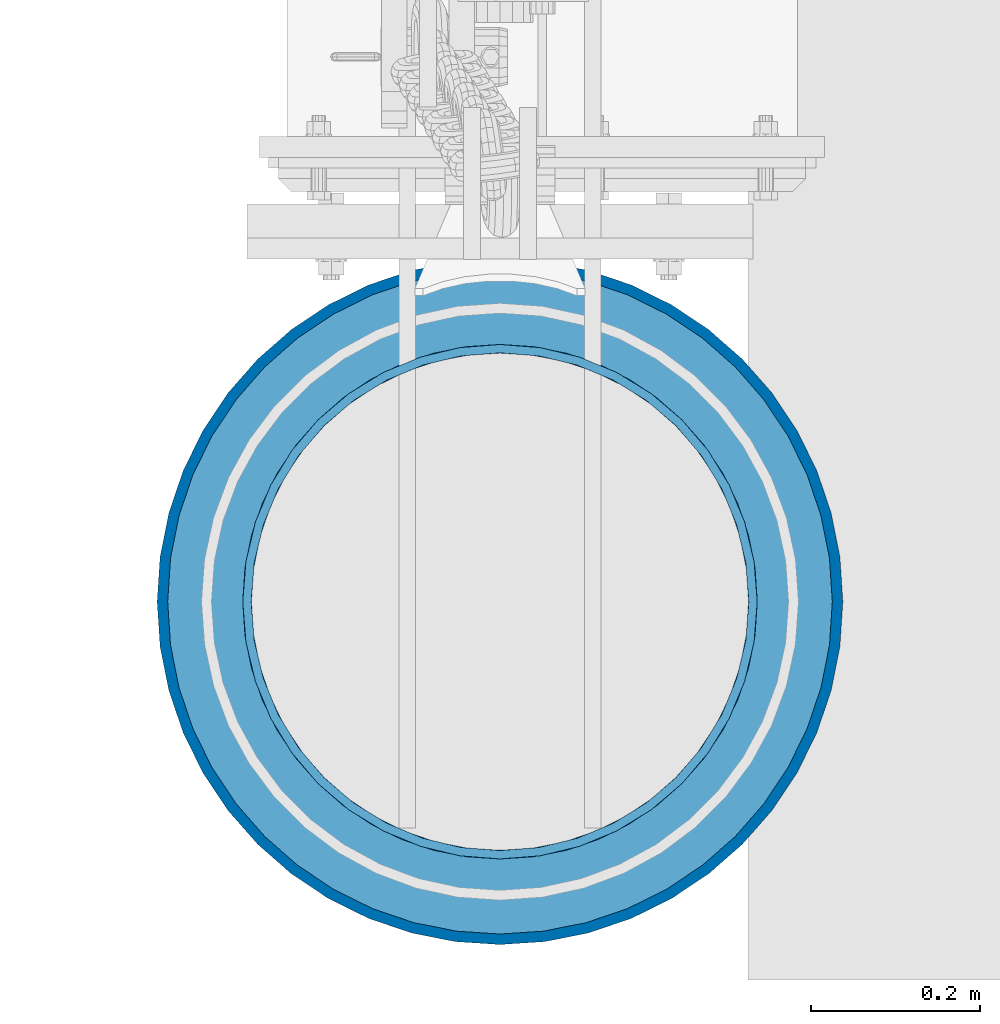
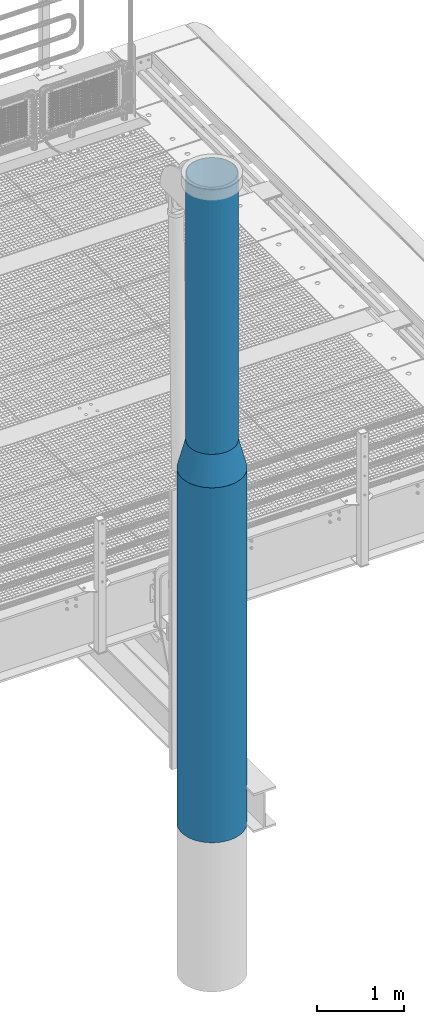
# One storey, part 108 of 1530: 3 columns.
"""IFC2X3 building model written with IfcOpenShell, lengths in millimetres."""

from ifc_helpers import new_model, si_unit, frame, origin_with_axes, place, context, subcontext, project, spatial, faceted_brep, material, type_object, element, save


model = new_model("IFC2X3")

# Units and contexts
model_context = context("Model", 3, precision=1e-05, world=origin_with_axes())
body_context = subcontext(model_context, "Body", "Model", "MODEL_VIEW")
ifc_project = project(units=[si_unit("LENGTHUNIT", "METRE", prefix="MILLI"), si_unit("AREAUNIT", "SQUARE_METRE"), si_unit("VOLUMEUNIT", "CUBIC_METRE"), si_unit("MASSUNIT", "GRAM", prefix="KILO"), si_unit("TIMEUNIT", "SECOND"), si_unit("PLANEANGLEUNIT", "RADIAN"), si_unit("SOLIDANGLEUNIT", "STERADIAN"), si_unit("THERMODYNAMICTEMPERATUREUNIT", "DEGREE_CELSIUS"), si_unit("LUMINOUSINTENSITYUNIT", "LUMEN")], contexts=[model_context])

# Site, building, storey
site_placement = place(None, origin_with_axes())
site = spatial("IfcSite", under=ifc_project, at=site_placement, Name="Brattvåg", CompositionType="ELEMENT")
building_placement = place(site_placement, origin_with_axes())
building = spatial("IfcBuilding", under=site, at=building_placement, Name="Undefined", CompositionType="ELEMENT")
storey_placement = place(building_placement, origin_with_axes())
storey = spatial("IfcBuildingStorey", under=building, at=storey_placement, Name="Undefined", CompositionType="ELEMENT", Elevation=0.0)

# Columns
ifc_material = material(Name="STEEL/Steel_Undefined")
column_type_1 = type_object("IfcColumnType", Name="EPD813*813*610*610*10", PredefinedType="NOTDEFINED")
column_1_placement = place(storey_placement, frame((12199.9995346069, -1321.50027084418, 2100.0), z_axis=(-1.0, 1.99999855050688e-09, 0.0), x_axis=(0.0, 0.0, 1.0)))
element("IfcColumn", 1, at=column_1_placement, inside=storey, type_object=column_type_1, material=ifc_material, Name="HEISTÅRN", context=body_context, shape_type="Brep", body=[
    faceted_brep([(0.0, -406.5, 0.0), (0.0, -403.022336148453, -53.0588971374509), (400.0, -302.390682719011, -39.8104886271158), (400.0, -305.0, 0.0), (0.0, -392.648848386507, -105.209941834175), (400.0, -294.607377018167, -78.9398087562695), (0.0, -375.557029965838, -155.560815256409), (400.0, -281.783257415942, -116.718446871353), (0.0, -352.039326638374, -203.25), (400.0, -264.137748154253, -152.5), (0.0, -322.498132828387, -247.461520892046), (400.0, -241.972768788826, -185.67223584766), (0.0, -287.438906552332, -287.438906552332), (400.0, -215.667568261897, -215.667568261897), (0.0, -247.461520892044, -322.498132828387), (400.0, -185.67223584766, -241.972768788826), (0.0, -203.25, -352.039326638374), (400.0, -152.5, -264.137748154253), (0.0, -155.560815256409, -375.557029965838), (400.0, -116.718446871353, -281.783257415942), (0.0, -105.209941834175, -392.648848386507), (400.0, -78.9398087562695, -294.607377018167), (0.0, -53.0588971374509, -403.022336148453), (400.0, -39.8104886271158, -302.390682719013), (0.0, 0.0, -406.5), (400.0, 0.0, -305.0), (0.0, 53.0588971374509, -403.022336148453), (400.0, 39.8104886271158, -302.390682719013), (0.0, 105.209941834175, -392.648848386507), (400.0, 78.9398087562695, -294.607377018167), (0.0, 155.560815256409, -375.557029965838), (400.0, 116.718446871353, -281.783257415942), (0.0, 203.25, -352.039326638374), (400.0, 152.5, -264.137748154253), (0.0, 247.461520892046, -322.498132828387), (400.0, 185.67223584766, -241.972768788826), (0.0, 287.438906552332, -287.438906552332), (400.0, 215.667568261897, -215.667568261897), (0.0, 322.498132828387, -247.461520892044), (400.0, 241.972768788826, -185.67223584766), (0.0, 352.039326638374, -203.25), (400.0, 264.137748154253, -152.5), (0.0, 375.557029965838, -155.560815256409), (400.0, 281.783257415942, -116.718446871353), (0.0, 392.648848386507, -105.209941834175), (400.0, 294.607377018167, -78.9398087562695), (0.0, 403.022336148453, -53.0588971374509), (400.0, 302.390682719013, -39.8104886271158), (0.0, 406.5, 0.0), (400.0, 305.0, 0.0), (0.0, 403.022336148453, 53.0588971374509), (400.0, 302.390682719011, 39.8104886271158), (0.0, 392.648848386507, 105.209941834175), (400.0, 294.607377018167, 78.9398087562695), (0.0, 375.557029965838, 155.560815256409), (400.0, 281.783257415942, 116.718446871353), (0.0, 352.039326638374, 203.25), (400.0, 264.137748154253, 152.5), (0.0, 322.498132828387, 247.461520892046), (400.0, 241.972768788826, 185.67223584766), (0.0, 287.438906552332, 287.438906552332), (400.0, 215.667568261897, 215.667568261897), (0.0, 247.461520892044, 322.498132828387), (400.0, 185.67223584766, 241.972768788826), (0.0, 203.25, 352.039326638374), (400.0, 152.5, 264.137748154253), (0.0, 155.560815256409, 375.557029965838), (400.0, 116.718446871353, 281.783257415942), (0.0, 105.209941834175, 392.648848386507), (400.0, 78.9398087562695, 294.607377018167), (0.0, 53.0588971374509, 403.022336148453), (400.0, 39.8104886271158, 302.390682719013), (0.0, 0.0, 406.5), (400.0, 0.0, 305.0), (0.0, -53.0588971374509, 403.022336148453), (400.0, -39.8104886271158, 302.390682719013), (0.0, -105.209941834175, 392.648848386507), (400.0, -78.9398087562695, 294.607377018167), (0.0, -155.560815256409, 375.557029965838), (400.0, -116.718446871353, 281.783257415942), (0.0, -203.25, 352.039326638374), (400.0, -152.5, 264.137748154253), (0.0, -247.461520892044, 322.498132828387), (400.0, -185.67223584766, 241.972768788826), (0.0, -287.438906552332, 287.438906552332), (400.0, -215.667568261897, 215.667568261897), (0.0, -322.498132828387, 247.461520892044), (400.0, -241.972768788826, 185.67223584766), (0.0, -352.039326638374, 203.25), (400.0, -264.137748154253, 152.5), (0.0, -375.557029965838, 155.560815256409), (400.0, -281.783257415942, 116.718446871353), (0.0, -392.648848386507, 105.209941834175), (400.0, -294.607377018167, 78.9398087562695), (0.0, -403.022336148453, 53.0588971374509), (400.0, -302.390682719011, 39.8104886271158), (0.0, -396.183076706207, 0.0), (0.0, -392.793675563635, 51.712268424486), (400.0, -292.162022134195, 38.4638599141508), (400.0, -294.683076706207, 0.0), (0.0, -382.683465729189, 102.539725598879), (400.0, -284.641994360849, 76.2695925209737), (0.0, -366.025435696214, 151.612699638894), (400.0, -272.251663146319, 112.770331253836), (0.0, -343.104608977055, 198.091538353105), (400.0, -255.203030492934, 147.341538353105), (0.0, -314.313167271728, 241.180975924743), (400.0, -233.787803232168, 179.391690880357), (0.0, -280.14374013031, 280.14374013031), (400.0, -208.372401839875, 208.372401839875), (0.0, -241.180975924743, 314.313167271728), (400.0, -179.391690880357, 233.787803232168), (0.0, -198.091538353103, 343.104608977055), (400.0, -147.341538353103, 255.203030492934), (0.0, -151.612699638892, 366.025435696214), (400.0, -112.770331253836, 272.251663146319), (0.0, -102.539725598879, 382.683465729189), (400.0, -76.2695925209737, 284.641994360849), (0.0, -51.712268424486, 392.793675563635), (400.0, -38.4638599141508, 292.162022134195), (0.0, 0.0, 396.183076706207), (400.0, 0.0, 294.683076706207), (0.0, 51.712268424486, 392.793675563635), (400.0, 38.4638599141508, 292.162022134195), (0.0, 102.539725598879, 382.683465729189), (400.0, 76.2695925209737, 284.641994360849), (0.0, 151.612699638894, 366.025435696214), (400.0, 112.770331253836, 272.251663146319), (0.0, 198.091538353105, 343.104608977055), (400.0, 147.341538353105, 255.203030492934), (0.0, 241.180975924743, 314.313167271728), (400.0, 179.391690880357, 233.787803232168), (0.0, 280.14374013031, 280.14374013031), (400.0, 208.372401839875, 208.372401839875), (0.0, 314.313167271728, 241.180975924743), (400.0, 233.787803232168, 179.391690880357), (0.0, 343.104608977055, 198.091538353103), (400.0, 255.203030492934, 147.341538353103), (0.0, 366.025435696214, 151.612699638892), (400.0, 272.251663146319, 112.770331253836), (0.0, 382.683465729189, 102.539725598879), (400.0, 284.641994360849, 76.2695925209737), (0.0, 392.793675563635, 51.712268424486), (400.0, 292.162022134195, 38.4638599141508), (0.0, 396.183076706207, 0.0), (400.0, 294.683076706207, 0.0), (0.0, 392.793675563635, -51.712268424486), (400.0, 292.162022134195, -38.4638599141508), (0.0, 382.683465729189, -102.539725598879), (400.0, 284.641994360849, -76.2695925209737), (0.0, 366.025435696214, -151.612699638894), (400.0, 272.251663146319, -112.770331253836), (0.0, 343.104608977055, -198.091538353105), (400.0, 255.203030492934, -147.341538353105), (0.0, 314.313167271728, -241.180975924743), (400.0, 233.787803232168, -179.391690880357), (0.0, 280.14374013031, -280.14374013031), (400.0, 208.372401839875, -208.372401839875), (0.0, 241.180975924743, -314.313167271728), (400.0, 179.391690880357, -233.787803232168), (0.0, 198.091538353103, -343.104608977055), (400.0, 147.341538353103, -255.203030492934), (0.0, 151.612699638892, -366.025435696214), (400.0, 112.770331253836, -272.251663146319), (0.0, 102.539725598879, -382.683465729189), (400.0, 76.2695925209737, -284.641994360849), (0.0, 51.712268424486, -392.793675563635), (400.0, 38.4638599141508, -292.162022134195), (0.0, 0.0, -396.183076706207), (400.0, 0.0, -294.683076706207), (0.0, -51.712268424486, -392.793675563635), (400.0, -38.4638599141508, -292.162022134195), (0.0, -102.539725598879, -382.683465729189), (400.0, -76.2695925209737, -284.641994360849), (0.0, -151.612699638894, -366.025435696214), (400.0, -112.770331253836, -272.251663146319), (0.0, -198.091538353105, -343.104608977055), (400.0, -147.341538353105, -255.203030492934), (0.0, -241.180975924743, -314.313167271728), (400.0, -179.391690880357, -233.787803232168), (0.0, -280.14374013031, -280.14374013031), (400.0, -208.372401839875, -208.372401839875), (0.0, -314.313167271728, -241.180975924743), (400.0, -233.787803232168, -179.391690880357), (0.0, -343.104608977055, -198.091538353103), (400.0, -255.203030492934, -147.341538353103), (0.0, -366.025435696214, -151.612699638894), (400.0, -272.251663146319, -112.770331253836), (0.0, -382.683465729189, -102.539725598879), (400.0, -284.641994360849, -76.2695925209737), (0.0, -392.793675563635, -51.712268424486), (400.0, -292.162022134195, -38.4638599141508)], [[[0, 1, 2, 3]], [[1, 4, 5, 2]], [[4, 6, 7, 5]], [[6, 8, 9, 7]], [[8, 10, 11, 9]], [[10, 12, 13, 11]], [[12, 14, 15, 13]], [[14, 16, 17, 15]], [[16, 18, 19, 17]], [[18, 20, 21, 19]], [[20, 22, 23, 21]], [[22, 24, 25, 23]], [[24, 26, 27, 25]], [[26, 28, 29, 27]], [[28, 30, 31, 29]], [[30, 32, 33, 31]], [[32, 34, 35, 33]], [[34, 36, 37, 35]], [[36, 38, 39, 37]], [[38, 40, 41, 39]], [[40, 42, 43, 41]], [[42, 44, 45, 43]], [[44, 46, 47, 45]], [[46, 48, 49, 47]], [[48, 50, 51, 49]], [[50, 52, 53, 51]], [[52, 54, 55, 53]], [[54, 56, 57, 55]], [[56, 58, 59, 57]], [[58, 60, 61, 59]], [[60, 62, 63, 61]], [[62, 64, 65, 63]], [[64, 66, 67, 65]], [[66, 68, 69, 67]], [[68, 70, 71, 69]], [[70, 72, 73, 71]], [[72, 74, 75, 73]], [[74, 76, 77, 75]], [[76, 78, 79, 77]], [[78, 80, 81, 79]], [[80, 82, 83, 81]], [[82, 84, 85, 83]], [[84, 86, 87, 85]], [[86, 88, 89, 87]], [[88, 90, 91, 89]], [[90, 92, 93, 91]], [[92, 94, 95, 93]], [[94, 0, 3, 95]], [[96, 97, 98, 99]], [[97, 100, 101, 98]], [[100, 102, 103, 101]], [[102, 104, 105, 103]], [[104, 106, 107, 105]], [[106, 108, 109, 107]], [[108, 110, 111, 109]], [[110, 112, 113, 111]], [[112, 114, 115, 113]], [[114, 116, 117, 115]], [[116, 118, 119, 117]], [[118, 120, 121, 119]], [[120, 122, 123, 121]], [[122, 124, 125, 123]], [[124, 126, 127, 125]], [[126, 128, 129, 127]], [[128, 130, 131, 129]], [[130, 132, 133, 131]], [[132, 134, 135, 133]], [[134, 136, 137, 135]], [[136, 138, 139, 137]], [[138, 140, 141, 139]], [[140, 142, 143, 141]], [[142, 144, 145, 143]], [[144, 146, 147, 145]], [[146, 148, 149, 147]], [[148, 150, 151, 149]], [[150, 152, 153, 151]], [[152, 154, 155, 153]], [[154, 156, 157, 155]], [[156, 158, 159, 157]], [[158, 160, 161, 159]], [[160, 162, 163, 161]], [[162, 164, 165, 163]], [[164, 166, 167, 165]], [[166, 168, 169, 167]], [[168, 170, 171, 169]], [[170, 172, 173, 171]], [[172, 174, 175, 173]], [[174, 176, 177, 175]], [[176, 178, 179, 177]], [[178, 180, 181, 179]], [[180, 182, 183, 181]], [[182, 184, 185, 183]], [[184, 186, 187, 185]], [[186, 188, 189, 187]], [[188, 190, 191, 189]], [[190, 96, 99, 191]], [[5, 7, 9, 11, 13, 15, 17, 19, 21, 23, 25, 27, 29, 31, 33, 35, 37, 39, 41, 43, 45, 47, 49, 51, 53, 55, 57, 59, 61, 63, 65, 67, 69, 71, 73, 75, 77, 79, 81, 83, 85, 87, 89, 91, 93, 95, 3, 2], [101, 103, 105, 107, 109, 111, 113, 115, 117, 119, 121, 123, 125, 127, 129, 131, 133, 135, 137, 139, 141, 143, 145, 147, 149, 151, 153, 155, 157, 159, 161, 163, 165, 167, 169, 171, 173, 175, 177, 179, 181, 183, 185, 187, 189, 191, 99, 98]], [[94, 92, 90, 88, 86, 84, 82, 80, 78, 76, 74, 72, 70, 68, 66, 64, 62, 60, 58, 56, 54, 52, 50, 48, 46, 44, 42, 40, 38, 36, 34, 32, 30, 28, 26, 24, 22, 20, 18, 16, 14, 12, 10, 8, 6, 4, 1, 0], [190, 188, 186, 184, 182, 180, 178, 176, 174, 172, 170, 168, 166, 164, 162, 160, 158, 156, 154, 152, 150, 148, 146, 144, 142, 140, 138, 136, 134, 132, 130, 128, 126, 124, 122, 120, 118, 116, 114, 112, 110, 108, 106, 104, 102, 100, 97, 96]]]),
])
column_type_2 = type_object("IfcColumnType", Name="Ø813*12.5", PredefinedType="NOTDEFINED")
column_2_placement = place(storey_placement, frame((12199.9995346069, -1321.50027084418, -2900.0), z_axis=(-1.0, 1.99999855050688e-09, 0.0), x_axis=(0.0, 0.0, 1.0)))
element("IfcColumn", 2, at=column_2_placement, inside=storey, type_object=column_type_2, material=ifc_material, Name="HEISTÅRN", context=body_context, shape_type="Brep", body=[
    faceted_brep([(0.0, -394.0, 0.0), (0.0, -390.629275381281, 51.4273197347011), (5000.0, -390.629275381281, 51.4273197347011), (5000.0, -394.0, 0.0), (0.0, -380.574775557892, 101.974703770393), (5000.0, -380.574775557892, 101.974703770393), (0.0, -364.008535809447, 150.777272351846), (5000.0, -364.008535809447, 150.777272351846), (0.0, -341.214009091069, 197.0), (5000.0, -341.214009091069, 197.0), (0.0, -312.581216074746, 239.852003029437), (5000.0, -312.581216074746, 239.852003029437), (0.0, -278.600071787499, 278.600071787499), (5000.0, -278.600071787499, 278.600071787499), (0.0, -239.852003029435, 312.581216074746), (5000.0, -239.852003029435, 312.581216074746), (0.0, -197.0, 341.214009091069), (5000.0, -197.0, 341.214009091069), (0.0, -150.777272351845, 364.008535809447), (5000.0, -150.777272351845, 364.008535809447), (0.0, -101.974703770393, 380.574775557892), (5000.0, -101.974703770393, 380.574775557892), (0.0, -51.4273197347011, 390.629275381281), (5000.0, -51.4273197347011, 390.629275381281), (0.0, 0.0, 394.0), (5000.0, 0.0, 394.0), (0.0, 51.4273197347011, 390.629275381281), (5000.0, 51.4273197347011, 390.629275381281), (0.0, 101.974703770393, 380.574775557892), (5000.0, 101.974703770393, 380.574775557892), (0.0, 150.777272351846, 364.008535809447), (5000.0, 150.777272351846, 364.008535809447), (0.0, 197.0, 341.214009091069), (5000.0, 197.0, 341.214009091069), (0.0, 239.852003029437, 312.581216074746), (5000.0, 239.852003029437, 312.581216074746), (0.0, 278.600071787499, 278.600071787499), (5000.0, 278.600071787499, 278.600071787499), (0.0, 312.581216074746, 239.852003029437), (5000.0, 312.581216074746, 239.852003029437), (0.0, 341.214009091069, 197.0), (5000.0, 341.214009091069, 197.0), (0.0, 364.008535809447, 150.777272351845), (5000.0, 364.008535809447, 150.777272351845), (0.0, 380.574775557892, 101.974703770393), (5000.0, 380.574775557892, 101.974703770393), (0.0, 390.629275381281, 51.4273197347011), (5000.0, 390.629275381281, 51.4273197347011), (0.0, 394.0, 0.0), (5000.0, 394.0, 0.0), (0.0, 390.629275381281, -51.4273197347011), (5000.0, 390.629275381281, -51.4273197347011), (0.0, 380.574775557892, -101.974703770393), (5000.0, 380.574775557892, -101.974703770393), (0.0, 364.008535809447, -150.777272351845), (5000.0, 364.008535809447, -150.777272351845), (0.0, 341.214009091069, -197.0), (5000.0, 341.214009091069, -197.0), (0.0, 312.581216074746, -239.852003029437), (5000.0, 312.581216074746, -239.852003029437), (0.0, 278.600071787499, -278.600071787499), (5000.0, 278.600071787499, -278.600071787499), (0.0, 239.852003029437, -312.581216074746), (5000.0, 239.852003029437, -312.581216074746), (0.0, 197.0, -341.214009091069), (5000.0, 197.0, -341.214009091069), (0.0, 150.777272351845, -364.008535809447), (5000.0, 150.777272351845, -364.008535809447), (0.0, 101.974703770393, -380.574775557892), (5000.0, 101.974703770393, -380.574775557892), (0.0, 51.4273197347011, -390.629275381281), (5000.0, 51.4273197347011, -390.629275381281), (0.0, 0.0, -394.0), (5000.0, 0.0, -394.0), (0.0, -51.4273197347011, -390.629275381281), (5000.0, -51.4273197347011, -390.629275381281), (0.0, -101.974703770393, -380.574775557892), (5000.0, -101.974703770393, -380.574775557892), (0.0, -150.777272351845, -364.008535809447), (5000.0, -150.777272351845, -364.008535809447), (0.0, -197.0, -341.214009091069), (5000.0, -197.0, -341.214009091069), (0.0, -239.852003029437, -312.581216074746), (5000.0, -239.852003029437, -312.581216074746), (0.0, -278.600071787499, -278.600071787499), (5000.0, -278.600071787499, -278.600071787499), (0.0, -312.581216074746, -239.852003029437), (5000.0, -312.581216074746, -239.852003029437), (0.0, -341.214009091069, -197.0), (5000.0, -341.214009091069, -197.0), (0.0, -364.008535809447, -150.777272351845), (5000.0, -364.008535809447, -150.777272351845), (0.0, -380.574775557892, -101.974703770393), (5000.0, -380.574775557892, -101.974703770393), (0.0, -390.629275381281, -51.4273197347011), (5000.0, -390.629275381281, -51.4273197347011), (0.0, -406.5, 0.0), (0.0, -403.022336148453, -53.0588971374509), (5000.0, -403.022336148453, -53.0588971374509), (5000.0, -406.5, 0.0), (0.0, -392.648848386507, -105.209941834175), (5000.0, -392.648848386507, -105.209941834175), (0.0, -375.557029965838, -155.560815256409), (5000.0, -375.557029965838, -155.560815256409), (0.0, -352.039326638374, -203.25), (5000.0, -352.039326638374, -203.25), (0.0, -322.498132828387, -247.461520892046), (5000.0, -322.498132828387, -247.461520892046), (0.0, -287.438906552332, -287.438906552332), (5000.0, -287.438906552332, -287.438906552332), (0.0, -247.461520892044, -322.498132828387), (5000.0, -247.461520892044, -322.498132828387), (0.0, -203.25, -352.039326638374), (5000.0, -203.25, -352.039326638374), (0.0, -155.560815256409, -375.557029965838), (5000.0, -155.560815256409, -375.557029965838), (0.0, -105.209941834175, -392.648848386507), (5000.0, -105.209941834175, -392.648848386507), (0.0, -53.0588971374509, -403.022336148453), (5000.0, -53.0588971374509, -403.022336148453), (0.0, 0.0, -406.5), (5000.0, 0.0, -406.5), (0.0, 53.0588971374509, -403.022336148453), (5000.0, 53.0588971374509, -403.022336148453), (0.0, 105.209941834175, -392.648848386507), (5000.0, 105.209941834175, -392.648848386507), (0.0, 155.560815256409, -375.557029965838), (5000.0, 155.560815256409, -375.557029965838), (0.0, 203.25, -352.039326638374), (5000.0, 203.25, -352.039326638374), (0.0, 247.461520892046, -322.498132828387), (5000.0, 247.461520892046, -322.498132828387), (0.0, 287.438906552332, -287.438906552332), (5000.0, 287.438906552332, -287.438906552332), (0.0, 322.498132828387, -247.461520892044), (5000.0, 322.498132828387, -247.461520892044), (0.0, 352.039326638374, -203.25), (5000.0, 352.039326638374, -203.25), (0.0, 375.557029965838, -155.560815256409), (5000.0, 375.557029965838, -155.560815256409), (0.0, 392.648848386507, -105.209941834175), (5000.0, 392.648848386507, -105.209941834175), (0.0, 403.022336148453, -53.0588971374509), (5000.0, 403.022336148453, -53.0588971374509), (0.0, 406.5, 0.0), (5000.0, 406.5, 0.0), (0.0, 403.022336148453, 53.0588971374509), (5000.0, 403.022336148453, 53.0588971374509), (0.0, 392.648848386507, 105.209941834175), (5000.0, 392.648848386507, 105.209941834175), (0.0, 375.557029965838, 155.560815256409), (5000.0, 375.557029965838, 155.560815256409), (0.0, 352.039326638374, 203.25), (5000.0, 352.039326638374, 203.25), (0.0, 322.498132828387, 247.461520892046), (5000.0, 322.498132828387, 247.461520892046), (0.0, 287.438906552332, 287.438906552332), (5000.0, 287.438906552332, 287.438906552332), (0.0, 247.461520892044, 322.498132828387), (5000.0, 247.461520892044, 322.498132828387), (0.0, 203.25, 352.039326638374), (5000.0, 203.25, 352.039326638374), (0.0, 155.560815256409, 375.557029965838), (5000.0, 155.560815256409, 375.557029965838), (0.0, 105.209941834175, 392.648848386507), (5000.0, 105.209941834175, 392.648848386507), (0.0, 53.0588971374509, 403.022336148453), (5000.0, 53.0588971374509, 403.022336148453), (0.0, 0.0, 406.5), (5000.0, 0.0, 406.5), (0.0, -53.0588971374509, 403.022336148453), (5000.0, -53.0588971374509, 403.022336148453), (0.0, -105.209941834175, 392.648848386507), (5000.0, -105.209941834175, 392.648848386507), (0.0, -155.560815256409, 375.557029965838), (5000.0, -155.560815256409, 375.557029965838), (0.0, -203.25, 352.039326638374), (5000.0, -203.25, 352.039326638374), (0.0, -247.461520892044, 322.498132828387), (5000.0, -247.461520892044, 322.498132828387), (0.0, -287.438906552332, 287.438906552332), (5000.0, -287.438906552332, 287.438906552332), (0.0, -322.498132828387, 247.461520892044), (5000.0, -322.498132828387, 247.461520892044), (0.0, -352.039326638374, 203.25), (5000.0, -352.039326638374, 203.25), (0.0, -375.557029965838, 155.560815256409), (5000.0, -375.557029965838, 155.560815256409), (0.0, -392.648848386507, 105.209941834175), (5000.0, -392.648848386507, 105.209941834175), (0.0, -403.022336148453, 53.0588971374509), (5000.0, -403.022336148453, 53.0588971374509)], [[[0, 1, 2, 3]], [[1, 4, 5, 2]], [[4, 6, 7, 5]], [[6, 8, 9, 7]], [[8, 10, 11, 9]], [[10, 12, 13, 11]], [[12, 14, 15, 13]], [[14, 16, 17, 15]], [[16, 18, 19, 17]], [[18, 20, 21, 19]], [[20, 22, 23, 21]], [[22, 24, 25, 23]], [[24, 26, 27, 25]], [[26, 28, 29, 27]], [[28, 30, 31, 29]], [[30, 32, 33, 31]], [[32, 34, 35, 33]], [[34, 36, 37, 35]], [[36, 38, 39, 37]], [[38, 40, 41, 39]], [[40, 42, 43, 41]], [[42, 44, 45, 43]], [[44, 46, 47, 45]], [[46, 48, 49, 47]], [[48, 50, 51, 49]], [[50, 52, 53, 51]], [[52, 54, 55, 53]], [[54, 56, 57, 55]], [[56, 58, 59, 57]], [[58, 60, 61, 59]], [[60, 62, 63, 61]], [[62, 64, 65, 63]], [[64, 66, 67, 65]], [[66, 68, 69, 67]], [[68, 70, 71, 69]], [[70, 72, 73, 71]], [[72, 74, 75, 73]], [[74, 76, 77, 75]], [[76, 78, 79, 77]], [[78, 80, 81, 79]], [[80, 82, 83, 81]], [[82, 84, 85, 83]], [[84, 86, 87, 85]], [[86, 88, 89, 87]], [[88, 90, 91, 89]], [[90, 92, 93, 91]], [[92, 94, 95, 93]], [[94, 0, 3, 95]], [[96, 97, 98, 99]], [[97, 100, 101, 98]], [[100, 102, 103, 101]], [[102, 104, 105, 103]], [[104, 106, 107, 105]], [[106, 108, 109, 107]], [[108, 110, 111, 109]], [[110, 112, 113, 111]], [[112, 114, 115, 113]], [[114, 116, 117, 115]], [[116, 118, 119, 117]], [[118, 120, 121, 119]], [[120, 122, 123, 121]], [[122, 124, 125, 123]], [[124, 126, 127, 125]], [[126, 128, 129, 127]], [[128, 130, 131, 129]], [[130, 132, 133, 131]], [[132, 134, 135, 133]], [[134, 136, 137, 135]], [[136, 138, 139, 137]], [[138, 140, 141, 139]], [[140, 142, 143, 141]], [[142, 144, 145, 143]], [[144, 146, 147, 145]], [[146, 148, 149, 147]], [[148, 150, 151, 149]], [[150, 152, 153, 151]], [[152, 154, 155, 153]], [[154, 156, 157, 155]], [[156, 158, 159, 157]], [[158, 160, 161, 159]], [[160, 162, 163, 161]], [[162, 164, 165, 163]], [[164, 166, 167, 165]], [[166, 168, 169, 167]], [[168, 170, 171, 169]], [[170, 172, 173, 171]], [[172, 174, 175, 173]], [[174, 176, 177, 175]], [[176, 178, 179, 177]], [[178, 180, 181, 179]], [[180, 182, 183, 181]], [[182, 184, 185, 183]], [[184, 186, 187, 185]], [[186, 188, 189, 187]], [[188, 190, 191, 189]], [[190, 96, 99, 191]], [[101, 103, 105, 107, 109, 111, 113, 115, 117, 119, 121, 123, 125, 127, 129, 131, 133, 135, 137, 139, 141, 143, 145, 147, 149, 151, 153, 155, 157, 159, 161, 163, 165, 167, 169, 171, 173, 175, 177, 179, 181, 183, 185, 187, 189, 191, 99, 98], [5, 7, 9, 11, 13, 15, 17, 19, 21, 23, 25, 27, 29, 31, 33, 35, 37, 39, 41, 43, 45, 47, 49, 51, 53, 55, 57, 59, 61, 63, 65, 67, 69, 71, 73, 75, 77, 79, 81, 83, 85, 87, 89, 91, 93, 95, 3, 2]], [[190, 188, 186, 184, 182, 180, 178, 176, 174, 172, 170, 168, 166, 164, 162, 160, 158, 156, 154, 152, 150, 148, 146, 144, 142, 140, 138, 136, 134, 132, 130, 128, 126, 124, 122, 120, 118, 116, 114, 112, 110, 108, 106, 104, 102, 100, 97, 96], [94, 92, 90, 88, 86, 84, 82, 80, 78, 76, 74, 72, 70, 68, 66, 64, 62, 60, 58, 56, 54, 52, 50, 48, 46, 44, 42, 40, 38, 36, 34, 32, 30, 28, 26, 24, 22, 20, 18, 16, 14, 12, 10, 8, 6, 4, 1, 0]]]),
])
column_type_3 = type_object("IfcColumnType", Name="Ø610*10", PredefinedType="NOTDEFINED")
column_3_placement = place(storey_placement, frame((12199.9995346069, -1321.50027084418, 2500.0), z_axis=(-1.0, 1.99999855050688e-09, 0.0), x_axis=(0.0, 0.0, 1.0)))
element("IfcColumn", 3, at=column_3_placement, inside=storey, type_object=column_type_3, material=ifc_material, Name="HEISTÅRN", context=body_context, shape_type="Brep", body=[
    faceted_brep([(0.0, -295.0, 0.0), (0.0, -291.368060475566, 46.1481671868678), (3760.0, -291.368060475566, 46.1481671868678), (3760.0, -295.0, 0.0), (0.0, -280.561672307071, 91.16001334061), (3760.0, -280.561672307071, 91.16001334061), (0.0, -262.846924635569, 133.927197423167), (3760.0, -262.846924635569, 133.927197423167), (0.0, -238.66001334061, 173.39664942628), (3760.0, -238.66001334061, 173.39664942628), (0.0, -208.596500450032, 208.596500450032), (3760.0, -208.596500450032, 208.596500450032), (0.0, -173.396649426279, 238.66001334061), (3760.0, -173.396649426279, 238.66001334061), (0.0, -133.927197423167, 262.846924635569), (3760.0, -133.927197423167, 262.846924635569), (0.0, -91.16001334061, 280.561672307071), (3760.0, -91.16001334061, 280.561672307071), (0.0, -46.1481671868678, 291.368060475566), (3760.0, -46.1481671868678, 291.368060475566), (0.0, 0.0, 295.0), (3760.0, 0.0, 295.0), (0.0, 46.1481671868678, 291.368060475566), (3760.0, 46.1481671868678, 291.368060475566), (0.0, 91.16001334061, 280.561672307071), (3760.0, 91.16001334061, 280.561672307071), (0.0, 133.927197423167, 262.846924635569), (3760.0, 133.927197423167, 262.846924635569), (0.0, 173.39664942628, 238.66001334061), (3760.0, 173.39664942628, 238.66001334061), (0.0, 208.596500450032, 208.596500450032), (3760.0, 208.596500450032, 208.596500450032), (0.0, 238.66001334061, 173.39664942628), (3760.0, 238.66001334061, 173.39664942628), (0.0, 262.846924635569, 133.927197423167), (3760.0, 262.846924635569, 133.927197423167), (0.0, 280.561672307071, 91.16001334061), (3760.0, 280.561672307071, 91.16001334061), (0.0, 291.368060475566, 46.1481671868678), (3760.0, 291.368060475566, 46.1481671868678), (0.0, 295.0, 0.0), (3760.0, 295.0, 0.0), (0.0, 291.368060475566, -46.1481671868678), (3760.0, 291.368060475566, -46.1481671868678), (0.0, 280.561672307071, -91.16001334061), (3760.0, 280.561672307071, -91.16001334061), (0.0, 262.846924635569, -133.927197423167), (3760.0, 262.846924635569, -133.927197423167), (0.0, 238.66001334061, -173.39664942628), (3760.0, 238.66001334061, -173.39664942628), (0.0, 208.596500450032, -208.596500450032), (3760.0, 208.596500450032, -208.596500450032), (0.0, 173.39664942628, -238.66001334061), (3760.0, 173.39664942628, -238.66001334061), (0.0, 133.927197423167, -262.846924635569), (3760.0, 133.927197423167, -262.846924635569), (0.0, 91.16001334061, -280.561672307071), (3760.0, 91.16001334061, -280.561672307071), (0.0, 46.1481671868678, -291.368060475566), (3760.0, 46.1481671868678, -291.368060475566), (0.0, 0.0, -295.0), (3760.0, 0.0, -295.0), (0.0, -46.1481671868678, -291.368060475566), (3760.0, -46.1481671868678, -291.368060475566), (0.0, -91.16001334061, -280.561672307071), (3760.0, -91.16001334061, -280.561672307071), (0.0, -133.927197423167, -262.846924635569), (3760.0, -133.927197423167, -262.846924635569), (0.0, -173.39664942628, -238.66001334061), (3760.0, -173.39664942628, -238.66001334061), (0.0, -208.596500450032, -208.596500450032), (3760.0, -208.596500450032, -208.596500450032), (0.0, -238.66001334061, -173.39664942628), (3760.0, -238.66001334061, -173.39664942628), (0.0, -262.846924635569, -133.927197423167), (3760.0, -262.846924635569, -133.927197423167), (0.0, -280.561672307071, -91.16001334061), (3760.0, -280.561672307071, -91.16001334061), (0.0, -291.368060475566, -46.1481671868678), (3760.0, -291.368060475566, -46.1481671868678), (0.0, -305.0, 0.0), (0.0, -301.244943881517, -47.7125118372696), (3760.0, -301.244943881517, -47.7125118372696), (3760.0, -305.0, 0.0), (0.0, -290.072237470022, -94.2501832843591), (3760.0, -290.072237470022, -94.2501832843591), (0.0, -271.756989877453, -138.467102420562), (3760.0, -271.756989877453, -138.467102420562), (0.0, -246.750183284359, -179.274501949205), (3760.0, -246.750183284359, -179.274501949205), (0.0, -215.667568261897, -215.667568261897), (3760.0, -215.667568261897, -215.667568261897), (0.0, -179.274501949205, -246.750183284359), (3760.0, -179.274501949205, -246.750183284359), (0.0, -138.467102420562, -271.756989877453), (3760.0, -138.467102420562, -271.756989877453), (0.0, -94.2501832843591, -290.072237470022), (3760.0, -94.2501832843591, -290.072237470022), (0.0, -47.7125118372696, -301.244943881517), (3760.0, -47.7125118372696, -301.244943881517), (0.0, 0.0, -305.0), (3760.0, 0.0, -305.0), (0.0, 47.7125118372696, -301.244943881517), (3760.0, 47.7125118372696, -301.244943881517), (0.0, 94.2501832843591, -290.072237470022), (3760.0, 94.2501832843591, -290.072237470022), (0.0, 138.467102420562, -271.756989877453), (3760.0, 138.467102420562, -271.756989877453), (0.0, 179.274501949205, -246.750183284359), (3760.0, 179.274501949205, -246.750183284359), (0.0, 215.667568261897, -215.667568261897), (3760.0, 215.667568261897, -215.667568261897), (0.0, 246.750183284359, -179.274501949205), (3760.0, 246.750183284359, -179.274501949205), (0.0, 271.756989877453, -138.467102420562), (3760.0, 271.756989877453, -138.467102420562), (0.0, 290.072237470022, -94.2501832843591), (3760.0, 290.072237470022, -94.2501832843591), (0.0, 301.244943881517, -47.7125118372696), (3760.0, 301.244943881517, -47.7125118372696), (0.0, 305.0, 0.0), (3760.0, 305.0, 0.0), (0.0, 301.244943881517, 47.7125118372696), (3760.0, 301.244943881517, 47.7125118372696), (0.0, 290.072237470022, 94.2501832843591), (3760.0, 290.072237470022, 94.2501832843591), (0.0, 271.756989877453, 138.467102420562), (3760.0, 271.756989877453, 138.467102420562), (0.0, 246.750183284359, 179.274501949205), (3760.0, 246.750183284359, 179.274501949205), (0.0, 215.667568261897, 215.667568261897), (3760.0, 215.667568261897, 215.667568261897), (0.0, 179.274501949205, 246.750183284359), (3760.0, 179.274501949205, 246.750183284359), (0.0, 138.467102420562, 271.756989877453), (3760.0, 138.467102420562, 271.756989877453), (0.0, 94.2501832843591, 290.072237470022), (3760.0, 94.2501832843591, 290.072237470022), (0.0, 47.7125118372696, 301.244943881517), (3760.0, 47.7125118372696, 301.244943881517), (0.0, 0.0, 305.0), (3760.0, 0.0, 305.0), (0.0, -47.7125118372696, 301.244943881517), (3760.0, -47.7125118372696, 301.244943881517), (0.0, -94.2501832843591, 290.072237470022), (3760.0, -94.2501832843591, 290.072237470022), (0.0, -138.467102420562, 271.756989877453), (3760.0, -138.467102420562, 271.756989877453), (0.0, -179.274501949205, 246.750183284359), (3760.0, -179.274501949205, 246.750183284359), (0.0, -215.667568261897, 215.667568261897), (3760.0, -215.667568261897, 215.667568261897), (0.0, -246.750183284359, 179.274501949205), (3760.0, -246.750183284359, 179.274501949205), (0.0, -271.756989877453, 138.467102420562), (3760.0, -271.756989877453, 138.467102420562), (0.0, -290.072237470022, 94.2501832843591), (3760.0, -290.072237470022, 94.2501832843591), (0.0, -301.244943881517, 47.7125118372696), (3760.0, -301.244943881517, 47.7125118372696)], [[[0, 1, 2, 3]], [[1, 4, 5, 2]], [[4, 6, 7, 5]], [[6, 8, 9, 7]], [[8, 10, 11, 9]], [[10, 12, 13, 11]], [[12, 14, 15, 13]], [[14, 16, 17, 15]], [[16, 18, 19, 17]], [[18, 20, 21, 19]], [[20, 22, 23, 21]], [[22, 24, 25, 23]], [[24, 26, 27, 25]], [[26, 28, 29, 27]], [[28, 30, 31, 29]], [[30, 32, 33, 31]], [[32, 34, 35, 33]], [[34, 36, 37, 35]], [[36, 38, 39, 37]], [[38, 40, 41, 39]], [[40, 42, 43, 41]], [[42, 44, 45, 43]], [[44, 46, 47, 45]], [[46, 48, 49, 47]], [[48, 50, 51, 49]], [[50, 52, 53, 51]], [[52, 54, 55, 53]], [[54, 56, 57, 55]], [[56, 58, 59, 57]], [[58, 60, 61, 59]], [[60, 62, 63, 61]], [[62, 64, 65, 63]], [[64, 66, 67, 65]], [[66, 68, 69, 67]], [[68, 70, 71, 69]], [[70, 72, 73, 71]], [[72, 74, 75, 73]], [[74, 76, 77, 75]], [[76, 78, 79, 77]], [[78, 0, 3, 79]], [[80, 81, 82, 83]], [[81, 84, 85, 82]], [[84, 86, 87, 85]], [[86, 88, 89, 87]], [[88, 90, 91, 89]], [[90, 92, 93, 91]], [[92, 94, 95, 93]], [[94, 96, 97, 95]], [[96, 98, 99, 97]], [[98, 100, 101, 99]], [[100, 102, 103, 101]], [[102, 104, 105, 103]], [[104, 106, 107, 105]], [[106, 108, 109, 107]], [[108, 110, 111, 109]], [[110, 112, 113, 111]], [[112, 114, 115, 113]], [[114, 116, 117, 115]], [[116, 118, 119, 117]], [[118, 120, 121, 119]], [[120, 122, 123, 121]], [[122, 124, 125, 123]], [[124, 126, 127, 125]], [[126, 128, 129, 127]], [[128, 130, 131, 129]], [[130, 132, 133, 131]], [[132, 134, 135, 133]], [[134, 136, 137, 135]], [[136, 138, 139, 137]], [[138, 140, 141, 139]], [[140, 142, 143, 141]], [[142, 144, 145, 143]], [[144, 146, 147, 145]], [[146, 148, 149, 147]], [[148, 150, 151, 149]], [[150, 152, 153, 151]], [[152, 154, 155, 153]], [[154, 156, 157, 155]], [[156, 158, 159, 157]], [[158, 80, 83, 159]], [[85, 87, 89, 91, 93, 95, 97, 99, 101, 103, 105, 107, 109, 111, 113, 115, 117, 119, 121, 123, 125, 127, 129, 131, 133, 135, 137, 139, 141, 143, 145, 147, 149, 151, 153, 155, 157, 159, 83, 82], [5, 7, 9, 11, 13, 15, 17, 19, 21, 23, 25, 27, 29, 31, 33, 35, 37, 39, 41, 43, 45, 47, 49, 51, 53, 55, 57, 59, 61, 63, 65, 67, 69, 71, 73, 75, 77, 79, 3, 2]], [[158, 156, 154, 152, 150, 148, 146, 144, 142, 140, 138, 136, 134, 132, 130, 128, 126, 124, 122, 120, 118, 116, 114, 112, 110, 108, 106, 104, 102, 100, 98, 96, 94, 92, 90, 88, 86, 84, 81, 80], [78, 76, 74, 72, 70, 68, 66, 64, 62, 60, 58, 56, 54, 52, 50, 48, 46, 44, 42, 40, 38, 36, 34, 32, 30, 28, 26, 24, 22, 20, 18, 16, 14, 12, 10, 8, 6, 4, 1, 0]]]),
])

save(model, "model.ifc")
